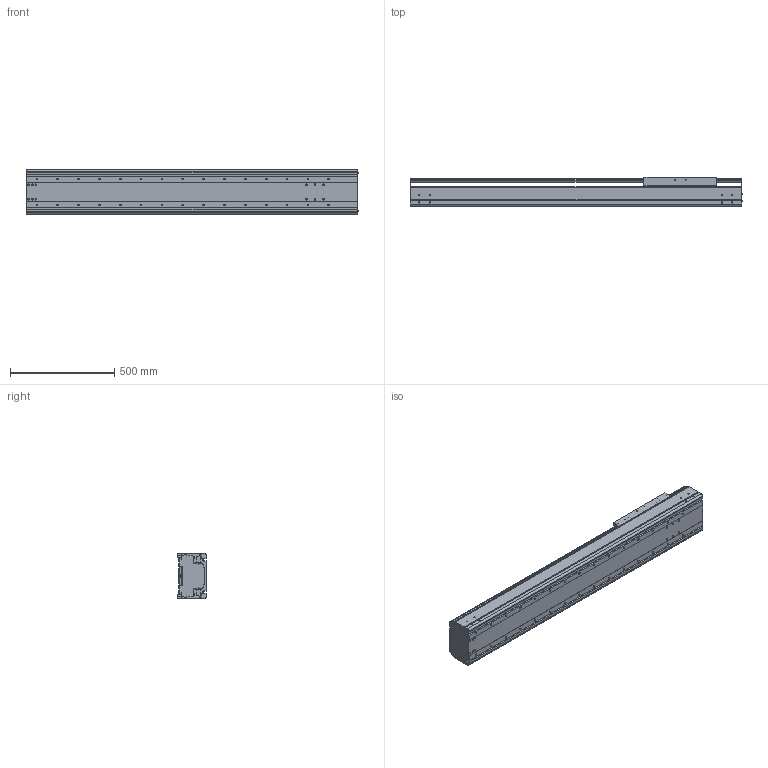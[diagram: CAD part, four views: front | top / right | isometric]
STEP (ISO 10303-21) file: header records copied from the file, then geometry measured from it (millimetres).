
FILE_DESCRIPTION((''),'2;1');
FILE_NAME('BE60J-ST-L_N-A5_IGS_PRT','2017-06-18T',(' '),(''),'PRO/ENGINEER BY PARAMETRIC TECHNOLOGY CORPORATION, 2015030','PRO/ENGINEER BY PARAMETRIC TECHNOLOGY CORPORATION, 2015030','');
FILE_SCHEMA(('CONFIG_CONTROL_DESIGN'));
Length unit declared in the file: millimetre
Products named in the file (1): BE60J-ST-L_N-A5_IGS_PRT
Bounding box: 1592.4 x 140 x 214 mm (x, y, z)
Volume: 12604063.8 mm3; surface area: 3416929.9 mm2
Topology: 2 solids, 122 shells, 1497 faces, 4204 edges, 2802 vertices
Faces by surface type: cylinder 780, plane 609, cone 60, sphere 24, torus 24
Entity records: 50454 total; most frequent: CARTESIAN_POINT 11325, DIRECTION 8172, ORIENTED_EDGE 7824, EDGE_CURVE 4148, AXIS2_PLACEMENT_3D 3050, VERTEX_POINT 2802, VECTOR 2072, LINE 2072
